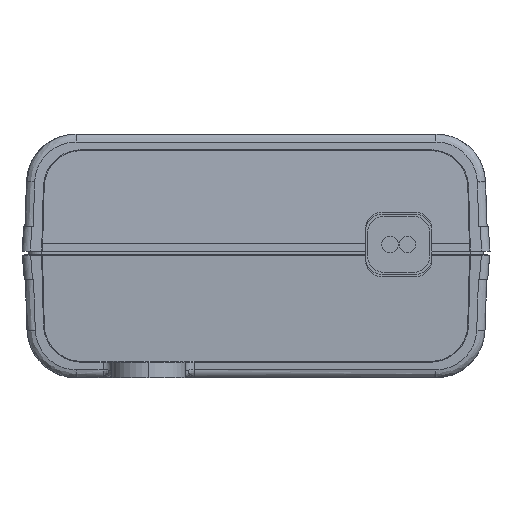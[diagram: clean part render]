
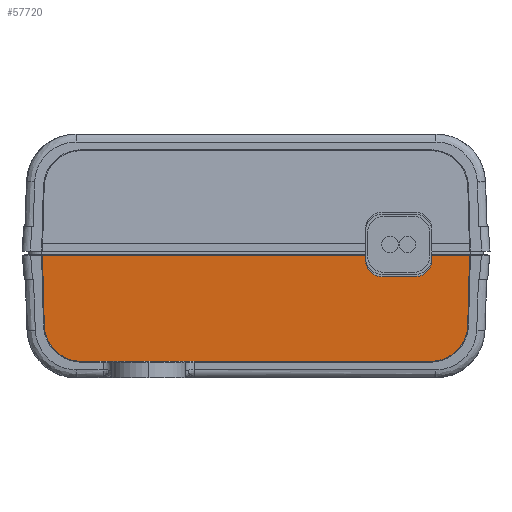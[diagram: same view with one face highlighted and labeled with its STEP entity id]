
A CAD part, left-side view. The second image highlights one B-rep face of the part: STEP entity #57720.
In plain terms, the highlighted planar face has unit normal (-0.999, 0, -0.035).
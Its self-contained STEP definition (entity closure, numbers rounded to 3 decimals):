
#56830=CARTESIAN_POINT('',(44.934,80.383,
23.46));
#56840=DIRECTION('',(-0.999,-0.,-0.035));
#56850=DIRECTION('',(0.,-1.,0.));
#56860=AXIS2_PLACEMENT_3D('',#56830,#56840,#56850);
#56870=PLANE('',#56860);
#56880=CARTESIAN_POINT('',(45.234,0.,14.85));
#56890=DIRECTION('',(0.,-1.,0.));
#56900=VECTOR('',#56890,1.);
#56910=LINE('',#56880,#56900);
#56920=CARTESIAN_POINT('',(45.234,99.757,14.85));
#56930=VERTEX_POINT('',#56920);
#56940=CARTESIAN_POINT('',(45.234,60.502,14.85));
#56950=VERTEX_POINT('',#56940);
#56960=EDGE_CURVE('',#56930,#56950,#56910,.T.);
#56970=ORIENTED_EDGE('',*,*,#56960,.F.);
#56980=CARTESIAN_POINT('',(45.753,60.502,0.));
#56990=DIRECTION('',(0.035,0.,
-0.999));
#57000=VECTOR('',#56990,1.);
#57010=LINE('',#56980,#57000);
#57020=CARTESIAN_POINT('',(45.28,60.502,
13.55));
#57030=VERTEX_POINT('',#57020);
#57040=EDGE_CURVE('',#56950,#57030,#57010,.T.);
#57050=ORIENTED_EDGE('',*,*,#57040,.F.);
#57060=CARTESIAN_POINT('',(45.28,0.,13.55));
#57070=DIRECTION('',(0.,-1.,0.));
#57080=VECTOR('',#57070,1.);
#57090=LINE('',#57060,#57080);
#57100=CARTESIAN_POINT('',(45.28,52.802,
13.55));
#57110=VERTEX_POINT('',#57100);
#57120=EDGE_CURVE('',#57030,#57110,#57090,.T.);
#57130=ORIENTED_EDGE('',*,*,#57120,.F.);
#57140=CARTESIAN_POINT('',(45.753,52.802,0.));
#57150=DIRECTION('',(-0.035,0.,
0.999));
#57160=VECTOR('',#57150,1.);
#57170=LINE('',#57140,#57160);
#57180=CARTESIAN_POINT('',(45.234,52.802,14.85));
#57190=VERTEX_POINT('',#57180);
#57200=EDGE_CURVE('',#57110,#57190,#57170,.T.);
#57210=ORIENTED_EDGE('',*,*,#57200,.F.);
#57220=CARTESIAN_POINT('',(45.234,0.,14.85));
#57230=DIRECTION('',(0.,-1.,0.));
#57240=VECTOR('',#57230,1.);
#57250=LINE('',#57220,#57240);
#57260=CARTESIAN_POINT('',(45.234,48.084,14.85));
#57270=VERTEX_POINT('',#57260);
#57280=EDGE_CURVE('',#57190,#57270,#57250,.T.);
#57290=ORIENTED_EDGE('',*,*,#57280,.F.);
#57300=CARTESIAN_POINT('',(45.753,48.473,0.));
#57310=DIRECTION('',(-0.035,-0.026,
0.999));
#57320=VECTOR('',#57310,1.);
#57330=LINE('',#57300,#57320);
#57340=CARTESIAN_POINT('',(45.53,48.303,
6.382));
#57350=VERTEX_POINT('',#57340);
#57360=EDGE_CURVE('',#57350,#57270,#57330,.T.);
#57370=ORIENTED_EDGE('',*,*,#57360,.T.);
#57380=CARTESIAN_POINT('',(45.526,52.804,6.5));
#57390=DIRECTION('',(-0.999,0.,-0.035));
#57400=DIRECTION('',(0.035,0.,-0.999));
#57410=AXIS2_PLACEMENT_3D('',#57380,#57390,#57400);
#57420=CIRCLE('',#57410,4.503);
#57430=CARTESIAN_POINT('',(45.683,52.804,2.));
#57440=VERTEX_POINT('',#57430);
#57450=EDGE_CURVE('',#57440,#57350,#57420,.T.);
#57460=ORIENTED_EDGE('',*,*,#57450,.T.);
#57470=CARTESIAN_POINT('',(45.683,0.,2.));
#57480=DIRECTION('',(0.,-1.,0.));
#57490=VECTOR('',#57480,1.);
#57500=LINE('',#57470,#57490);
#57510=CARTESIAN_POINT('',(45.683,95.036,2.));
#57520=VERTEX_POINT('',#57510);
#57530=EDGE_CURVE('',#57520,#57440,#57500,.T.);
#57540=ORIENTED_EDGE('',*,*,#57530,.T.);
#57550=CARTESIAN_POINT('',(45.526,95.036,6.5));
#57560=DIRECTION('',(-0.999,0.,-0.035));
#57570=DIRECTION('',(0.035,0.,-0.999));
#57580=AXIS2_PLACEMENT_3D('',#57550,#57560,#57570);
#57590=CIRCLE('',#57580,4.503);
#57600=CARTESIAN_POINT('',(45.53,99.538,
6.382));
#57610=VERTEX_POINT('',#57600);
#57620=EDGE_CURVE('',#57610,#57520,#57590,.T.);
#57630=ORIENTED_EDGE('',*,*,#57620,.T.);
#57640=CARTESIAN_POINT('',(45.753,99.368,0.));
#57650=DIRECTION('',(0.035,-0.026,
-0.999));
#57660=VECTOR('',#57650,1.);
#57670=LINE('',#57640,#57660);
#57680=EDGE_CURVE('',#56930,#57610,#57670,.T.);
#57690=ORIENTED_EDGE('',*,*,#57680,.T.);
#57700=EDGE_LOOP('',(#57690,#57630,#57540,#57460,#57370,#57290,#57210,
#57130,#57050,#56970));
#57710=FACE_OUTER_BOUND('',#57700,.T.);
#57720=ADVANCED_FACE('',(#57710),#56870,.T.);
